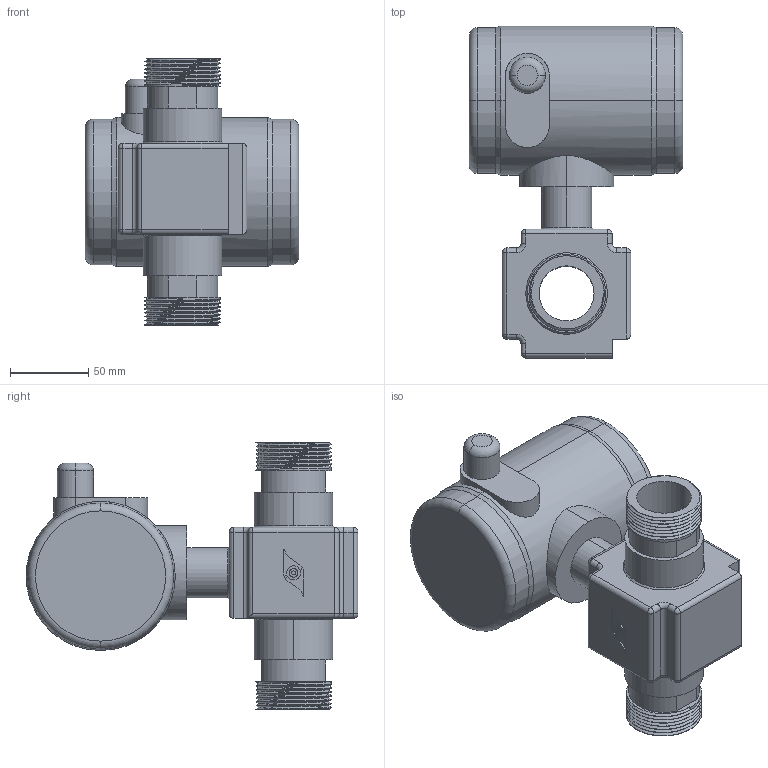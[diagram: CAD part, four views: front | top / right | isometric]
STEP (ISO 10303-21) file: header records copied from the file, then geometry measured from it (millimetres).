
FILE_DESCRIPTION (( 'STEP AP203' ), '1' );
FILE_NAME ('PC32-G1_1_2.STEP', '2015-11-06T13:27:38', ( '' ), ( '' ), 'SwSTEP 2.0', 'SolidWorks 2015', '' );
FILE_SCHEMA (( 'CONFIG_CONTROL_DESIGN' ));
Length unit declared in the file: millimetre
Products named in the file (2): PC32-G1_1_2
Bounding box: 136 x 211.5 x 170 mm (x, y, z)
Volume: 1399618.7 mm3; surface area: 126413.6 mm2
Topology: 1 solids, 1 shells, 205 faces, 498 edges, 306 vertices
Faces by surface type: cylinder 102, plane 60, bspline 12, torus 11, cone 10, sphere 10
Entity records: 8708 total; most frequent: CARTESIAN_POINT 3981, ORIENTED_EDGE 972, DIRECTION 943, EDGE_CURVE 486, AXIS2_PLACEMENT_3D 358, VERTEX_POINT 302, VECTOR 227, LINE 227
